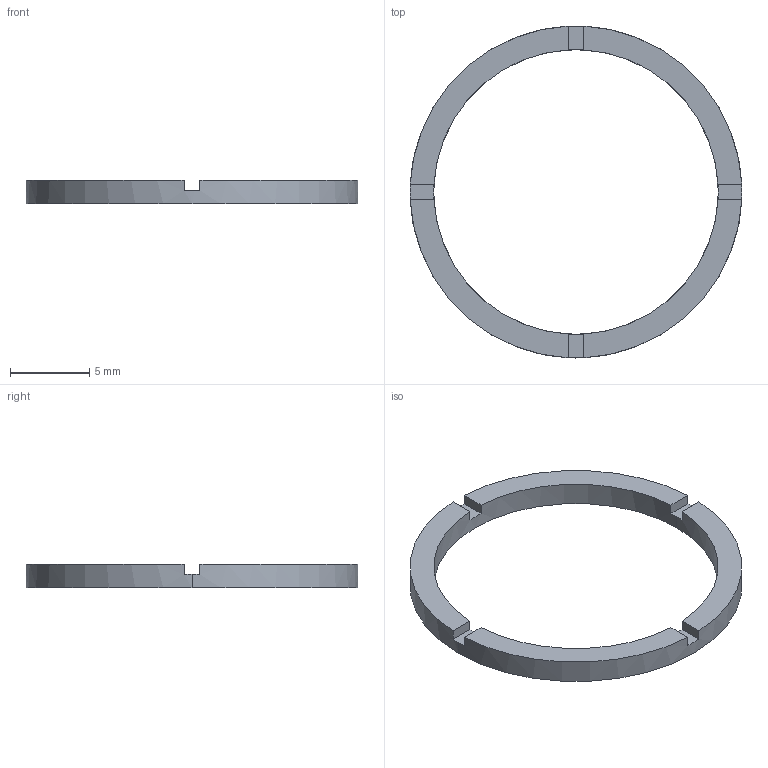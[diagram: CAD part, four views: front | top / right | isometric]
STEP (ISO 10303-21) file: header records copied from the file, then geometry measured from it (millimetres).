
FILE_DESCRIPTION (( 'STEP AP214' ), '1' );
FILE_NAME ('疏え炵苀_薦嫖え揤遠_V1.STEP', '2026-06-22T02:27:55', ( '' ), ( '' ), 'SwSTEP 2.0', 'SolidWorks 2022', '' );
FILE_SCHEMA (( 'AUTOMOTIVE_DESIGN' ));
Length unit declared in the file: millimetre
Products named in the file (1): 波片系统_滤光片压环_V1
Bounding box: 21 x 21 x 1.5 mm (x, y, z)
Volume: 133.9 mm3; surface area: 370.2 mm2
Topology: 1 solids, 1 shells, 21 faces, 60 edges, 40 vertices
Faces by surface type: plane 17, cylinder 4
Entity records: 736 total; most frequent: DIRECTION 128, CARTESIAN_POINT 122, ORIENTED_EDGE 120, EDGE_CURVE 60, AXIS2_PLACEMENT_3D 46, VERTEX_POINT 40, VECTOR 36, LINE 36
